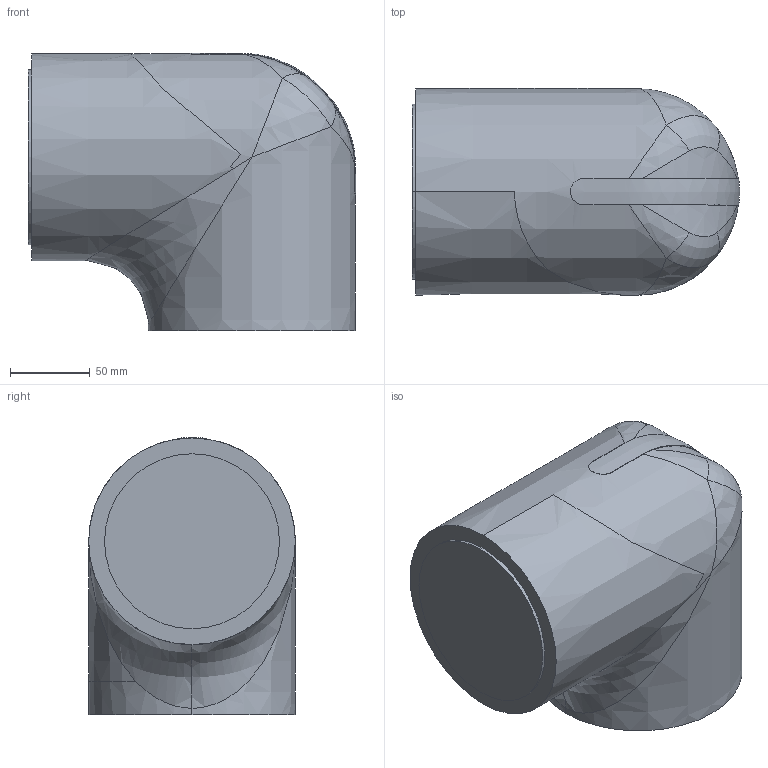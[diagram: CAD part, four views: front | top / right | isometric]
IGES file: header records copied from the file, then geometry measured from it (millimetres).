
Start section:  PTC IGES file: uaxis_view_yr-n1-06vxc12-a00_.igs
Global section: file name: uaxis_view_yr-n1-06vxc12-a00_.igs; native system: Creo Parametric by PTC Inc.; preprocessor: 2021072; author: yoizumi; organization: Unknown; date: 20250214.090734; units: millimetre
Bounding box: 205.77 x 130 x 174.32 mm (x, y, z)
Volume: 3262916.5 mm3; surface area: 124436.2 mm2
Topology: 1 solids, 1 shells, 34 faces, 90 edges, 59 vertices
Faces by surface type: bspline 24, revolution 10
